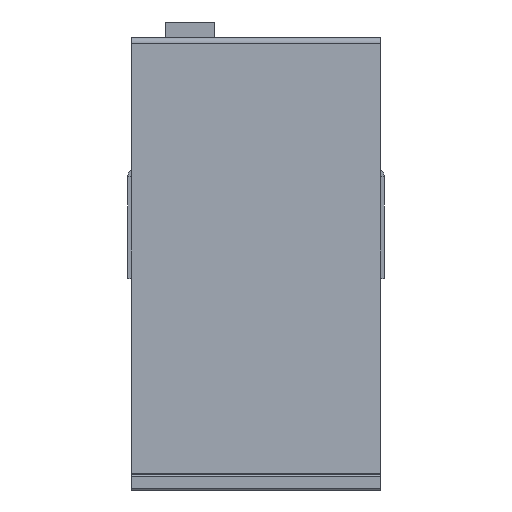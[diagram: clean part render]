
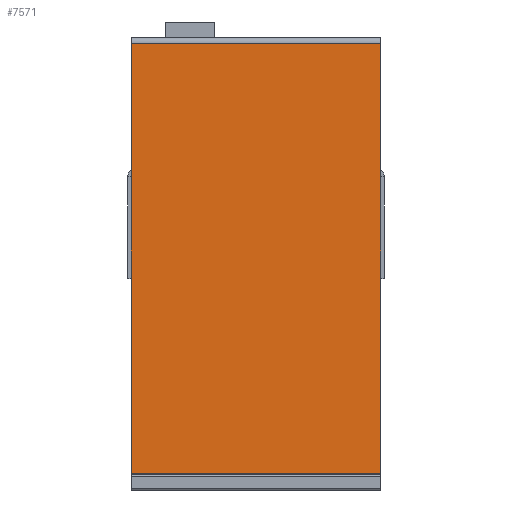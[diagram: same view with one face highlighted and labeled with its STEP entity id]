
A CAD part, left-side view. The second image highlights one B-rep face of the part: STEP entity #7571.
In plain terms, the highlighted planar face has unit normal (-1, 0, 0.013).
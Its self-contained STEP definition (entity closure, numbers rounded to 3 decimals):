
#7513=CARTESIAN_POINT('',(-51.747,0.,2.197));
#7514=VERTEX_POINT('',#7513);
#7522=CARTESIAN_POINT('',(-51.747,33.,2.197));
#7523=VERTEX_POINT('',#7522);
#7524=CARTESIAN_POINT('',(-51.747,33.,2.197));
#7525=DIRECTION('',(0.,-1.,0.));
#7526=VECTOR('',#7525,33.);
#7527=LINE('',#7524,#7526);
#7528=EDGE_CURVE('',#7523,#7514,#7527,.T.);
#7541=CARTESIAN_POINT('',(-51.747,33.,2.197));
#7542=DIRECTION('',(-1.,0.,0.013));
#7543=DIRECTION('',(-0.013,0.,-1.));
#7544=AXIS2_PLACEMENT_3D('',#7541,#7542,#7543);
#7545=PLANE('',#7544);
#7546=CARTESIAN_POINT('',(-51.011,0.,59.136));
#7547=VERTEX_POINT('',#7546);
#7548=CARTESIAN_POINT('',(-51.747,0.,2.197));
#7549=DIRECTION('',(0.013,0.,1.));
#7550=VECTOR('',#7549,56.944);
#7551=LINE('',#7548,#7550);
#7552=EDGE_CURVE('',#7514,#7547,#7551,.T.);
#7553=ORIENTED_EDGE('',*,*,#7552,.T.);
#7554=CARTESIAN_POINT('',(-51.011,33.,59.136));
#7555=VERTEX_POINT('',#7554);
#7556=CARTESIAN_POINT('',(-51.011,33.,59.136));
#7557=DIRECTION('',(0.,-1.,0.));
#7558=VECTOR('',#7557,33.);
#7559=LINE('',#7556,#7558);
#7560=EDGE_CURVE('',#7555,#7547,#7559,.T.);
#7561=ORIENTED_EDGE('',*,*,#7560,.F.);
#7562=CARTESIAN_POINT('',(-51.747,33.,2.197));
#7563=DIRECTION('',(0.013,0.,1.));
#7564=VECTOR('',#7563,56.944);
#7565=LINE('',#7562,#7564);
#7566=EDGE_CURVE('',#7523,#7555,#7565,.T.);
#7567=ORIENTED_EDGE('',*,*,#7566,.F.);
#7568=ORIENTED_EDGE('',*,*,#7528,.T.);
#7569=EDGE_LOOP('',(#7553,#7561,#7567,#7568));
#7570=FACE_BOUND('',#7569,.T.);
#7571=ADVANCED_FACE('',(#7570),#7545,.T.);
